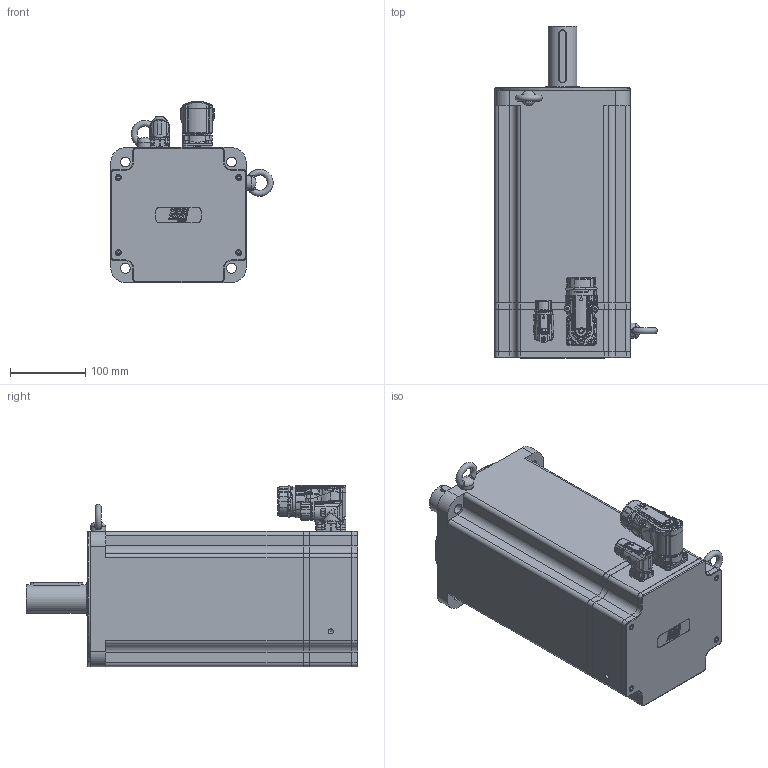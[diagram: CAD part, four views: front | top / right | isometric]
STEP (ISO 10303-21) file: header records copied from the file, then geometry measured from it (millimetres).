
FILE_DESCRIPTION(/* description */ ('Unknown'),/* implementation_level */ '2;1');
FILE_NAME(/* name */ 'TC4-180.7F.X X.X.3.XX.0.X.G3.00.00 Q0B809',/* time_stamp */ '2026-03-10T15:07:36+01:00',/* author */ ('Unknown'),/* organization */ ('Unknown'),/* preprocessor_version */ 'ST-DEVELOPER v19.4',/* originating_system */ 'Solid Edge',/* authorisation */ 'Unknown');
FILE_SCHEMA (('AUTOMOTIVE_DESIGN {1 0 10303 214 3 1 1}'));
Products named in the file (16): Q0B809 7F VUOTO; Calotta TC4-180 V8; 003251040631; 005911000479; 005911000205; 003155002231; 005113001040; 003120003175; 005119001064; 005911000185; Coperchio campana TC4-180; 003003199968; 005911000180; 005321000010; 007117000452; 007117000454
Assembly tree (32 placements, depth 2):
  Q0B809 7F VUOTO
    Calotta TC4-180 V8
    003251040631
    005911000479  x8
    005911000205  x4
    003155002231
    005113001040
    003120003175
    005119001064
    005911000185  x4
    Coperchio campana TC4-180
    003003199968
    005911000180  x4
    005321000010  x2
    007117000452
    007117000454
Bounding box: 216 x 441.5 x 241.45 mm (x, y, z)
Volume: 4392084.9 mm3; surface area: 855901.1 mm2
Topology: 34 solids, 35 shells, 3278 faces, 8122 edges, 5037 vertices
Faces by surface type: plane 1169, cylinder 700, bspline 616, cone 346, torus 313, sphere 134
Full cylindrical faces by diameter (mm): 0.5 x1, 1 x17, 1.2 x17, 2 x4, 2.013 x8, 2.5 x4, 3 x5, 3.242 x12, 3.6 x5, 4 x12, 4.134 x24, 4.2 x8, 4.5 x9, 4.7 x4, 5 x8, 5.4 x1, 5.5 x9, 5.9 x1, 6.647 x14, 7 x10, 8 x9, 9 x4, 10 x5, 10.106 x2, 15 x1, 15.2 x1, 17.4 x2, 18 x1, 20 x3, 21.15 x2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
Entity records: 144818 total; most frequent: CARTESIAN_POINT 59771, ORIENTED_EDGE 13722, DIRECTION 11873, EDGE_CURVE 6861, AXIS2_PLACEMENT_3D 4677, VERTEX_POINT 4536, FACE_BOUND 3799, EDGE_LOOP 3773
